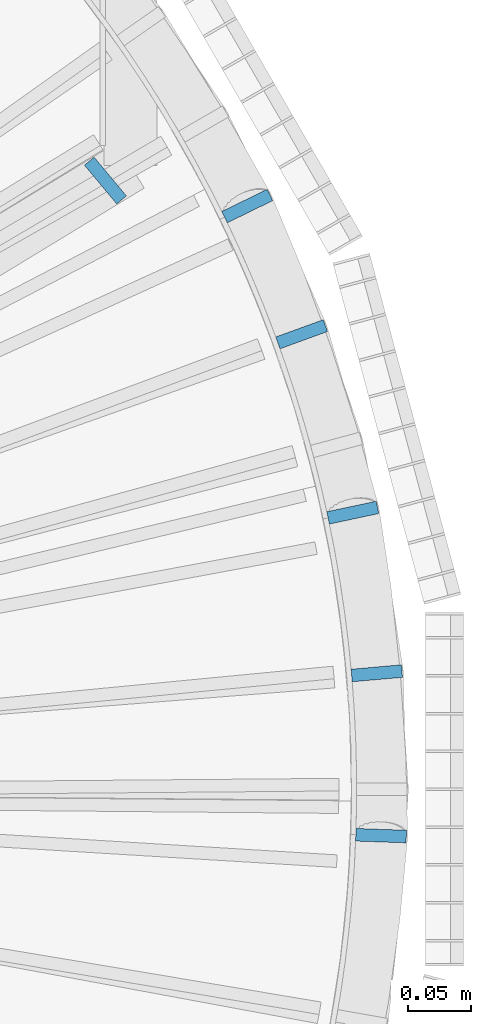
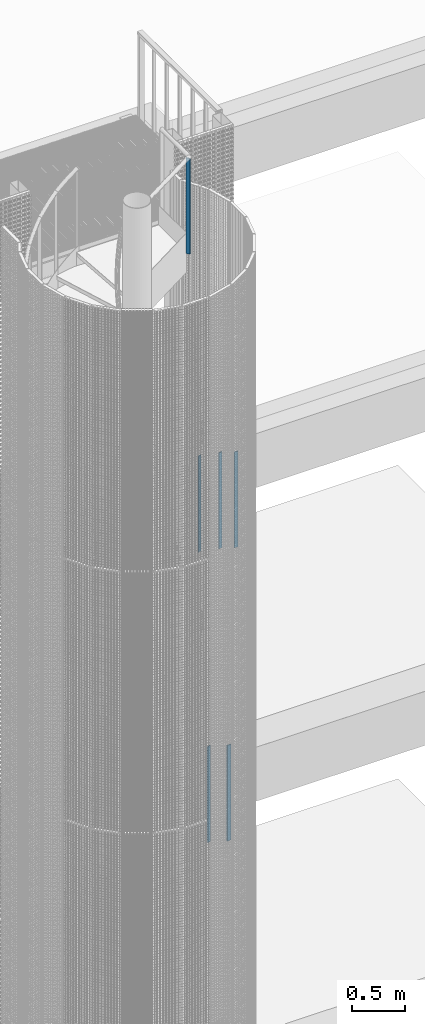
# One storey, part 68 of 1183: 6 columns, 6 elements without a shape of their own.
"""IFC2X3 building model written with IfcOpenShell, lengths in millimetres."""

from ifc_helpers import new_model, si_unit, frame, origin_with_axes, origin_2d_with_axis, place, context, subcontext, project, spatial, rectangle, extrude, material, type_object, element, aggregate, save


model = new_model("IFC2X3")

# Units and contexts
model_context = context("Model", 3, precision=1e-05, world=origin_with_axes())
body_context = subcontext(model_context, "Body", "Model", "MODEL_VIEW")
ifc_project = project(units=[si_unit("LENGTHUNIT", "METRE", prefix="MILLI"), si_unit("AREAUNIT", "SQUARE_METRE"), si_unit("VOLUMEUNIT", "CUBIC_METRE"), si_unit("MASSUNIT", "GRAM", prefix="KILO"), si_unit("TIMEUNIT", "SECOND"), si_unit("PLANEANGLEUNIT", "RADIAN"), si_unit("SOLIDANGLEUNIT", "STERADIAN"), si_unit("THERMODYNAMICTEMPERATUREUNIT", "DEGREE_CELSIUS"), si_unit("LUMINOUSINTENSITYUNIT", "LUMEN")], contexts=[model_context])

# Site, building, storey
site_placement = place(None, origin_with_axes())
site = spatial("IfcSite", under=ifc_project, at=site_placement, Name="Undefined", CompositionType="ELEMENT")
building_placement = place(site_placement, origin_with_axes())
building = spatial("IfcBuilding", under=site, at=building_placement, Name="Undefined", CompositionType="ELEMENT")
storey_placement = place(building_placement, origin_with_axes())
storey = spatial("IfcBuildingStorey", under=building, at=storey_placement, Name="Undefined", CompositionType="ELEMENT", Elevation=0.0)

# Assembly, column
assembly_1_placement = place(storey_placement, origin_with_axes())
assembly_1 = element("IfcElementAssembly", 1, at=assembly_1_placement, inside=storey, Name="MONTANT", AssemblyPlace="NOTDEFINED", PredefinedType="NOTDEFINED")
ifc_material = material(Name="STEEL/S235JR")
column_type = type_object("IfcColumnType", Name="PL10*40", PredefinedType="NOTDEFINED")
column_1_placement = place(assembly_1_placement, frame((22547.328924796, 462.043188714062, 13846.52), z_axis=(0.0, 0.0, 1.0), x_axis=(-0.898794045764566, -0.438371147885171, 0.0)))
column_1 = element("IfcColumn", 2, at=column_1_placement, type_object=column_type, material=ifc_material, Name="MONTANT", context=body_context, shape_type="SweptSolid", body=[
    extrude(rectangle(XDim=10.0, YDim=40.0, at=origin_2d_with_axis()), frame((0.0, 0.0, 1100.0), z_axis=(0.0, 0.0, -1.0), x_axis=(0.0, 1.0, 0.0)), (0.0, 0.0, 1.0), 1100.0),
])
aggregate(assembly_1, [column_1])

assembly_2_placement = place(storey_placement, origin_with_axes())
assembly_2 = element("IfcElementAssembly", 3, at=assembly_2_placement, inside=storey, Name="MONTANT", AssemblyPlace="NOTDEFINED", PredefinedType="NOTDEFINED")
column_2_placement = place(assembly_2_placement, frame((22434.9743570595, 482.240511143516, 17289.84), z_axis=(0.0, 0.0, 1.0), x_axis=(-0.640155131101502, 0.768245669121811, 0.0)))
column_2 = element("IfcColumn", 4, at=column_2_placement, type_object=column_type, material=ifc_material, Name="MONTANT", context=body_context, shape_type="SweptSolid", body=[
    extrude(rectangle(XDim=10.0, YDim=40.0, at=origin_2d_with_axis()), frame((0.0, 0.0, 1100.0), z_axis=(0.0, 0.0, -1.0), x_axis=(0.0, 1.0, 0.0)), (0.0, 0.0, 1.0), 1100.0),
])
aggregate(assembly_2, [column_2])

assembly_3_placement = place(storey_placement, origin_with_axes())
assembly_3 = element("IfcElementAssembly", 5, at=assembly_3_placement, inside=storey, Name="MONTANT", AssemblyPlace="NOTDEFINED", PredefinedType="NOTDEFINED")
column_3_placement = place(assembly_3_placement, frame((22653.3579316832, -36.7840695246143, 14159.56), z_axis=(0.0, 0.0, 1.0), x_axis=(-0.999390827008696, 0.0348994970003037, 0.0)))
column_3 = element("IfcColumn", 6, at=column_3_placement, type_object=column_type, material=ifc_material, Name="MONTANT", context=body_context, shape_type="SweptSolid", body=[
    extrude(rectangle(XDim=10.0, YDim=40.0, at=origin_2d_with_axis()), frame((0.0, 0.0, 1100.0), z_axis=(0.0, 0.0, -1.0), x_axis=(0.0, 1.0, 0.0)), (0.0, 0.0, 1.0), 1100.0),
])
aggregate(assembly_3, [column_3])

assembly_4_placement = place(storey_placement, origin_with_axes())
assembly_4 = element("IfcElementAssembly", 7, at=assembly_4_placement, inside=storey, Name="MONTANT", AssemblyPlace="NOTDEFINED", PredefinedType="NOTDEFINED")
column_4_placement = place(assembly_4_placement, frame((22630.9675711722, 219.138922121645, 14003.04), z_axis=(0.0, 0.0, 1.0), x_axis=(-0.978147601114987, -0.207911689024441, 0.0)))
column_4 = element("IfcColumn", 8, at=column_4_placement, type_object=column_type, material=ifc_material, Name="MONTANT", context=body_context, shape_type="SweptSolid", body=[
    extrude(rectangle(XDim=10.0, YDim=40.0, at=origin_2d_with_axis()), frame((0.0, 0.0, 1100.0), z_axis=(0.0, 0.0, -1.0), x_axis=(0.0, 1.0, 0.0)), (0.0, 0.0, 1.0), 1100.0),
])
aggregate(assembly_4, [column_4])

assembly_5_placement = place(storey_placement, origin_with_axes())
assembly_5 = element("IfcElementAssembly", 9, at=assembly_5_placement, inside=storey, Name="MONTANT", AssemblyPlace="NOTDEFINED", PredefinedType="NOTDEFINED")
column_5_placement = place(assembly_5_placement, frame((22649.9892117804, 91.8621528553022, 10716.08), z_axis=(0.0, 0.0, 1.0), x_axis=(-0.996194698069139, -0.087155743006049, 0.0)))
column_5 = element("IfcColumn", 10, at=column_5_placement, type_object=column_type, material=ifc_material, Name="MONTANT", context=body_context, shape_type="SweptSolid", body=[
    extrude(rectangle(XDim=10.0, YDim=40.0, at=origin_2d_with_axis()), frame((0.0, 0.0, 1100.0), z_axis=(0.0, 0.0, -1.0), x_axis=(0.0, 1.0, 0.0)), (0.0, 0.0, 1.0), 1100.0),
])
aggregate(assembly_5, [column_5])

assembly_6_placement = place(storey_placement, origin_with_axes())
assembly_6 = element("IfcElementAssembly", 11, at=assembly_6_placement, inside=storey, Name="MONTANT", AssemblyPlace="NOTDEFINED", PredefinedType="NOTDEFINED")
column_6_placement = place(assembly_6_placement, frame((22590.4360223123, 360.489231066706, 10559.56), z_axis=(0.0, 0.0, 1.0), x_axis=(-0.939692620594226, -0.342020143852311, 0.0)))
column_6 = element("IfcColumn", 12, at=column_6_placement, type_object=column_type, material=ifc_material, Name="MONTANT", context=body_context, shape_type="SweptSolid", body=[
    extrude(rectangle(XDim=10.0, YDim=40.0, at=origin_2d_with_axis()), frame((0.0, 0.0, 1100.0), z_axis=(0.0, 0.0, -1.0), x_axis=(0.0, 1.0, 0.0)), (0.0, 0.0, 1.0), 1100.0),
])
aggregate(assembly_6, [column_6])

save(model, "model.ifc")
